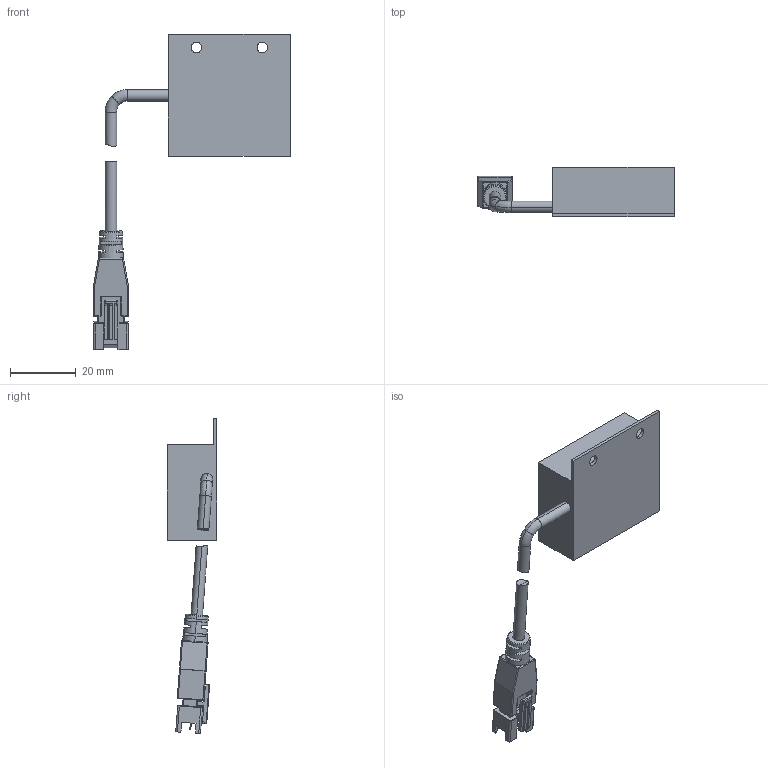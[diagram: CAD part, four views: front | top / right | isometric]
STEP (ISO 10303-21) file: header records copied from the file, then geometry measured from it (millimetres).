
FILE_DESCRIPTION((''),'2;1');
FILE_NAME('MV-LBSS-27-27_ASM','2019-09-19T',('Administrator'),(''),'PRO/ENGINEER BY PARAMETRIC TECHNOLOGY CORPORATION, 2010100','PRO/ENGINEER BY PARAMETRIC TECHNOLOGY CORPORATION, 2010100','');
FILE_SCHEMA(('CONFIG_CONTROL_DESIGN'));
Length unit declared in the file: millimetre
Products named in the file (5): WAIKE_2; LINE_TOU_74; BODY_12_5; ASSY_ASM_20_ASM; MV-LBSS-27-27_ASM
Assembly tree (4 placements, depth 3):
  MV-LBSS-27-27_ASM
    WAIKE_2
    ASSY_ASM_20_ASM
      LINE_TOU_74
      BODY_12_5
Bounding box: 59.69 x 15 x 95.67 mm (x, y, z)
Volume: 18448.4 mm3; surface area: 7287.3 mm2
Topology: 3 solids, 3 shells, 242 faces, 622 edges, 389 vertices
Faces by surface type: plane 141, cylinder 71, torus 12, bspline 8, sphere 8, cone 2
Entity records: 7578 total; most frequent: CARTESIAN_POINT 1569, DIRECTION 1242, ORIENTED_EDGE 1228, EDGE_CURVE 614, AXIS2_PLACEMENT_3D 421, VECTOR 400, LINE 400, VERTEX_POINT 389
